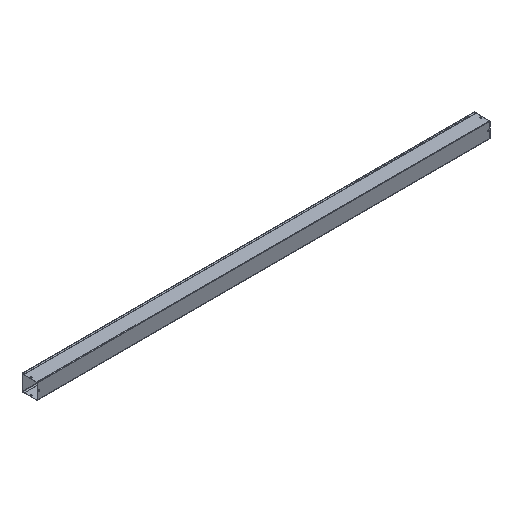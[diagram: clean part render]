
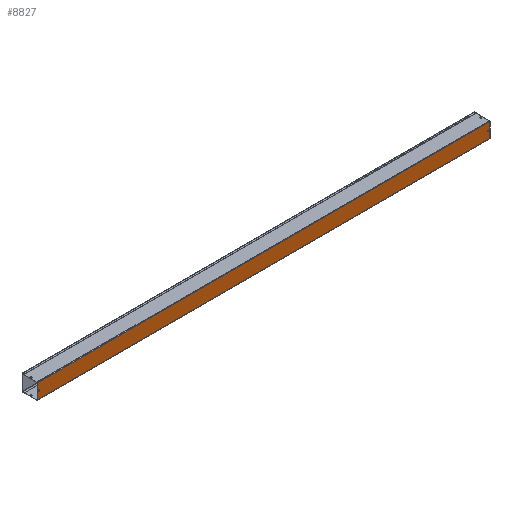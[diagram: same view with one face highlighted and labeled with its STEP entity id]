
A CAD part, isometric view. The second image highlights one B-rep face of the part: STEP entity #8827.
In plain terms, the highlighted planar face has unit normal (0, -1, 0).
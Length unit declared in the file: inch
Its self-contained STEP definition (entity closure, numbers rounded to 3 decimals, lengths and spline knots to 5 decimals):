
#163 = DIRECTION ( 'NONE',  ( 0., 0., 1. ) ) ;
#166 = DIRECTION ( 'NONE',  ( 0., 1., 0. ) ) ;
#276 = VERTEX_POINT ( 'NONE', #520 ) ;
#364 = VECTOR ( 'NONE', #6772, 39.37008 ) ;
#520 = CARTESIAN_POINT ( 'NONE',  ( -59.75, 0., -0.09375 ) ) ;
#639 = DIRECTION ( 'NONE',  ( 0., -1., 0. ) ) ;
#682 = ORIENTED_EDGE ( 'NONE', *, *, #12056, .F. ) ;
#708 = VERTEX_POINT ( 'NONE', #5968 ) ;
#731 = CARTESIAN_POINT ( 'NONE',  ( -59.5, 0., -0.09375 ) ) ;
#860 = ORIENTED_EDGE ( 'NONE', *, *, #7022, .T. ) ;
#1071 = CIRCLE ( 'NONE', #9167, 0.125 ) ;
#1174 = VECTOR ( 'NONE', #3885, 39.37008 ) ;
#1351 = EDGE_CURVE ( 'NONE', #4819, #13515, #1376, .T. ) ;
#1376 = LINE ( 'NONE', #3043, #13483 ) ;
#1610 = DIRECTION ( 'NONE',  ( 0., 1., 0. ) ) ;
#1661 = LINE ( 'NONE', #13605, #13236 ) ;
#1770 = ORIENTED_EDGE ( 'NONE', *, *, #8502, .T. ) ;
#1802 = CIRCLE ( 'NONE', #8773, 0.125 ) ;
#2091 = VERTEX_POINT ( 'NONE', #13499 ) ;
#2234 = VERTEX_POINT ( 'NONE', #4546 ) ;
#2649 = EDGE_CURVE ( 'NONE', #708, #2091, #13486, .T. ) ;
#2760 = CARTESIAN_POINT ( 'NONE',  ( -59.625, 0., 0.09375 ) ) ;
#3043 = CARTESIAN_POINT ( 'NONE',  ( -59.5, 0., 0.09375 ) ) ;
#3172 = EDGE_LOOP ( 'NONE', ( #12505, #682, #12497, #4682 ) ) ;
#3263 = LINE ( 'NONE', #11689, #9416 ) ;
#3344 = CARTESIAN_POINT ( 'NONE',  ( -59.625, 0., 0.09375 ) ) ;
#3380 = FACE_BOUND ( 'NONE', #9994, .T. ) ;
#3632 = CARTESIAN_POINT ( 'NONE',  ( 60., 0., -1.94 ) ) ;
#3716 = VECTOR ( 'NONE', #14877, 39.37008 ) ;
#3885 = DIRECTION ( 'NONE',  ( -1., 0., 0. ) ) ;
#3922 = DIRECTION ( 'NONE',  ( 0., 0., 1. ) ) ;
#4009 = VERTEX_POINT ( 'NONE', #12612 ) ;
#4110 = EDGE_CURVE ( 'NONE', #6492, #11724, #8923, .T. ) ;
#4196 = CARTESIAN_POINT ( 'NONE',  ( -59.75, 0., 0.09375 ) ) ;
#4493 = DIRECTION ( 'NONE',  ( 0., 0., 1. ) ) ;
#4541 = DIRECTION ( 'NONE',  ( 0., 1., 0. ) ) ;
#4546 = CARTESIAN_POINT ( 'NONE',  ( -60., 0., -1.94 ) ) ;
#4647 = VECTOR ( 'NONE', #8468, 39.37008 ) ;
#4682 = ORIENTED_EDGE ( 'NONE', *, *, #2649, .T. ) ;
#4760 = DIRECTION ( 'NONE',  ( 0., 0., 1. ) ) ;
#4819 = VERTEX_POINT ( 'NONE', #5518 ) ;
#4946 = EDGE_LOOP ( 'NONE', ( #10328, #14122, #7427, #860, #1770 ) ) ;
#5084 = VERTEX_POINT ( 'NONE', #12769 ) ;
#5392 = CIRCLE ( 'NONE', #12707, 0.125 ) ;
#5518 = CARTESIAN_POINT ( 'NONE',  ( -59.5, 0., 0.09375 ) ) ;
#5561 = EDGE_CURVE ( 'NONE', #5084, #4009, #8152, .T. ) ;
#5714 = EDGE_CURVE ( 'NONE', #2234, #2091, #3263, .T. ) ;
#5786 = VECTOR ( 'NONE', #6302, 39.37008 ) ;
#5911 = EDGE_CURVE ( 'NONE', #13515, #276, #1071, .T. ) ;
#5968 = CARTESIAN_POINT ( 'NONE',  ( 60., 0., 1.94 ) ) ;
#6192 = CARTESIAN_POINT ( 'NONE',  ( -59.625, 0., 0.21875 ) ) ;
#6302 = DIRECTION ( 'NONE',  ( 0., 0., 1. ) ) ;
#6453 = FACE_OUTER_BOUND ( 'NONE', #3172, .T. ) ;
#6492 = VERTEX_POINT ( 'NONE', #10477 ) ;
#6771 = CARTESIAN_POINT ( 'NONE',  ( -59.75, 0., 0.09375 ) ) ;
#6772 = DIRECTION ( 'NONE',  ( 0., 0., -1. ) ) ;
#6863 = VERTEX_POINT ( 'NONE', #4196 ) ;
#7022 = EDGE_CURVE ( 'NONE', #4009, #14474, #1802, .T. ) ;
#7066 = AXIS2_PLACEMENT_3D ( 'NONE', #8545, #1610, #9718 ) ;
#7088 = DIRECTION ( 'NONE',  ( 0., 1., 0. ) ) ;
#7096 = CARTESIAN_POINT ( 'NONE',  ( 59.625, 0., 0.09375 ) ) ;
#7139 = LINE ( 'NONE', #6771, #3716 ) ;
#7232 = CARTESIAN_POINT ( 'NONE',  ( 59.625, 0., 0.21875 ) ) ;
#7427 = ORIENTED_EDGE ( 'NONE', *, *, #5561, .T. ) ;
#7581 = EDGE_CURVE ( 'NONE', #14507, #4819, #12981, .T. ) ;
#7690 = ORIENTED_EDGE ( 'NONE', *, *, #7581, .T. ) ;
#7732 = LINE ( 'NONE', #11964, #4647 ) ;
#8152 = LINE ( 'NONE', #14878, #364 ) ;
#8181 = ORIENTED_EDGE ( 'NONE', *, *, #9724, .T. ) ;
#8262 = DIRECTION ( 'NONE',  ( 0., 0., -1. ) ) ;
#8381 = VERTEX_POINT ( 'NONE', #3632 ) ;
#8460 = CARTESIAN_POINT ( 'NONE',  ( 59.5, 0., -0.09375 ) ) ;
#8468 = DIRECTION ( 'NONE',  ( 0., 0., 1. ) ) ;
#8502 = EDGE_CURVE ( 'NONE', #14474, #6492, #7732, .T. ) ;
#8545 = CARTESIAN_POINT ( 'NONE',  ( 59.625, 0., 0.09375 ) ) ;
#8640 = CARTESIAN_POINT ( 'NONE',  ( 60., 0., 2.075 ) ) ;
#8749 = DIRECTION ( 'NONE',  ( 0., 0., -1. ) ) ;
#8773 = AXIS2_PLACEMENT_3D ( 'NONE', #11460, #4541, #12620 ) ;
#8827 = ADVANCED_FACE ( 'NONE', ( #12598, #3380, #6453 ), #13335, .T. ) ;
#8874 = LINE ( 'NONE', #8640, #5786 ) ;
#8923 = CIRCLE ( 'NONE', #13790, 0.125 ) ;
#8947 = ORIENTED_EDGE ( 'NONE', *, *, #5911, .T. ) ;
#9167 = AXIS2_PLACEMENT_3D ( 'NONE', #14018, #7088, #163 ) ;
#9416 = VECTOR ( 'NONE', #4760, 39.37008 ) ;
#9718 = DIRECTION ( 'NONE',  ( 0., 0., -1. ) ) ;
#9724 = EDGE_CURVE ( 'NONE', #276, #6863, #7139, .T. ) ;
#9874 = CARTESIAN_POINT ( 'NONE',  ( 60., 0., 2.075 ) ) ;
#9981 = CIRCLE ( 'NONE', #7066, 0.125 ) ;
#9992 = DIRECTION ( 'NONE',  ( 0., 0., -1. ) ) ;
#9994 = EDGE_LOOP ( 'NONE', ( #11452, #7690, #12091, #8947, #8181 ) ) ;
#10328 = ORIENTED_EDGE ( 'NONE', *, *, #4110, .T. ) ;
#10477 = CARTESIAN_POINT ( 'NONE',  ( 59.5, 0., 0.09375 ) ) ;
#10841 = DIRECTION ( 'NONE',  ( 0., 1., 0. ) ) ;
#11427 = DIRECTION ( 'NONE',  ( 0., 1., 0. ) ) ;
#11452 = ORIENTED_EDGE ( 'NONE', *, *, #13362, .T. ) ;
#11460 = CARTESIAN_POINT ( 'NONE',  ( 59.625, 0., -0.09375 ) ) ;
#11689 = CARTESIAN_POINT ( 'NONE',  ( -60., 0., 2.075 ) ) ;
#11724 = VERTEX_POINT ( 'NONE', #7232 ) ;
#11964 = CARTESIAN_POINT ( 'NONE',  ( 59.5, 0., 0.09375 ) ) ;
#12019 = CARTESIAN_POINT ( 'NONE',  ( 60., 0., 1.94 ) ) ;
#12056 = EDGE_CURVE ( 'NONE', #8381, #2234, #1661, .T. ) ;
#12063 = AXIS2_PLACEMENT_3D ( 'NONE', #3344, #11427, #4493 ) ;
#12091 = ORIENTED_EDGE ( 'NONE', *, *, #1351, .T. ) ;
#12497 = ORIENTED_EDGE ( 'NONE', *, *, #12800, .T. ) ;
#12505 = ORIENTED_EDGE ( 'NONE', *, *, #5714, .F. ) ;
#12598 = FACE_BOUND ( 'NONE', #4946, .T. ) ;
#12612 = CARTESIAN_POINT ( 'NONE',  ( 59.75, 0., -0.09375 ) ) ;
#12620 = DIRECTION ( 'NONE',  ( 0., 0., -1. ) ) ;
#12707 = AXIS2_PLACEMENT_3D ( 'NONE', #2760, #10841, #3922 ) ;
#12743 = EDGE_CURVE ( 'NONE', #11724, #5084, #9981, .T. ) ;
#12769 = CARTESIAN_POINT ( 'NONE',  ( 59.75, 0., 0.09375 ) ) ;
#12800 = EDGE_CURVE ( 'NONE', #8381, #708, #8874, .T. ) ;
#12981 = CIRCLE ( 'NONE', #12063, 0.125 ) ;
#13236 = VECTOR ( 'NONE', #14758, 39.37008 ) ;
#13335 = PLANE ( 'NONE',  #13719 ) ;
#13362 = EDGE_CURVE ( 'NONE', #6863, #14507, #5392, .T. ) ;
#13483 = VECTOR ( 'NONE', #9992, 39.37008 ) ;
#13486 = LINE ( 'NONE', #12019, #1174 ) ;
#13499 = CARTESIAN_POINT ( 'NONE',  ( -60., 0., 1.94 ) ) ;
#13515 = VERTEX_POINT ( 'NONE', #731 ) ;
#13605 = CARTESIAN_POINT ( 'NONE',  ( 60., 0., -1.94 ) ) ;
#13719 = AXIS2_PLACEMENT_3D ( 'NONE', #9874, #639, #8749 ) ;
#13790 = AXIS2_PLACEMENT_3D ( 'NONE', #7096, #166, #8262 ) ;
#14018 = CARTESIAN_POINT ( 'NONE',  ( -59.625, 0., -0.09375 ) ) ;
#14122 = ORIENTED_EDGE ( 'NONE', *, *, #12743, .T. ) ;
#14474 = VERTEX_POINT ( 'NONE', #8460 ) ;
#14507 = VERTEX_POINT ( 'NONE', #6192 ) ;
#14758 = DIRECTION ( 'NONE',  ( -1., 0., 0. ) ) ;
#14877 = DIRECTION ( 'NONE',  ( 0., 0., 1. ) ) ;
#14878 = CARTESIAN_POINT ( 'NONE',  ( 59.75, 0., 0.09375 ) ) ;
